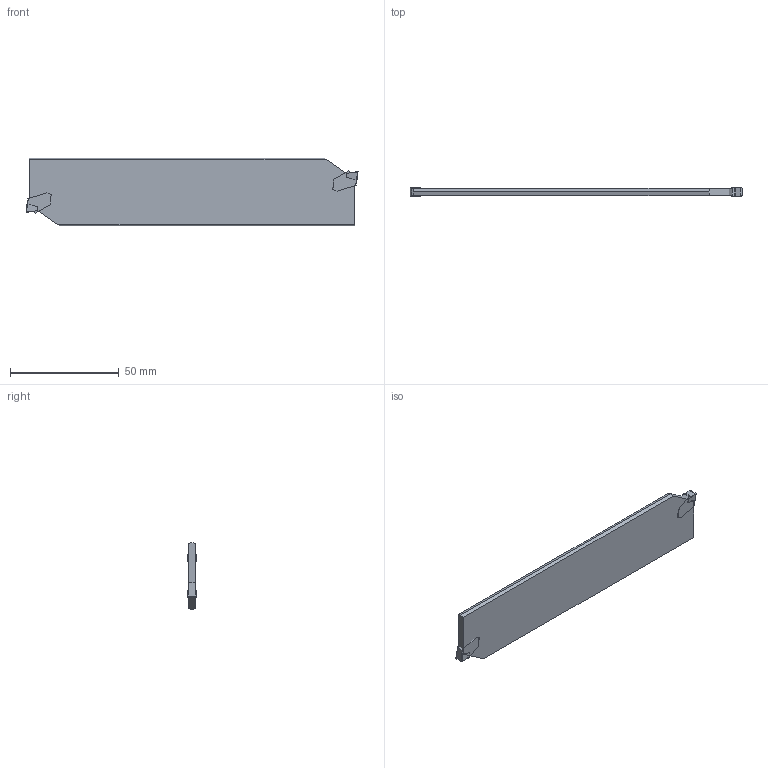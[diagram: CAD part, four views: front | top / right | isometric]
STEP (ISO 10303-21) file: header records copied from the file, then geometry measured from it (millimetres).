
FILE_DESCRIPTION(/* description */ (''),/* implementation_level */ '2;1');
FILE_NAME(/* name */ 'SPBA125-S-4-HAAS.stp',/* time_stamp */ '2020-10-14T14:26:06+09:00',/* author */ (''),/* organization */ (''),/* preprocessor_version */ 'ST-DEVELOPER v16',/* originating_system */ 'SIEMENS PLM Software NX 10.0',/* authorisation */ '');
FILE_SCHEMA (('AP203_CONFIGURATION_CONTROLLED_3D_DESIGN_OF_MECHANICAL_PARTS_AND_ASSEMBLIES_MIM_LF { 1 0 10303 403 2 1 2}'));
Length unit declared in the file: millimetre
Products named in the file (1): user1B3874A15zqt
Bounding box: 153 x 4.1 x 30.89 mm (x, y, z)
Volume: 14736.2 mm3; surface area: 10454 mm2
Topology: 3 solids, 3 shells, 60 faces, 170 edges, 116 vertices
Faces by surface type: plane 42, cylinder 18
Entity records: 2126 total; most frequent: CARTESIAN_POINT 363, ORIENTED_EDGE 356, DIRECTION 348, EDGE_CURVE 178, LINE 130, VECTOR 130, VERTEX_POINT 124, AXIS2_PLACEMENT_3D 109
